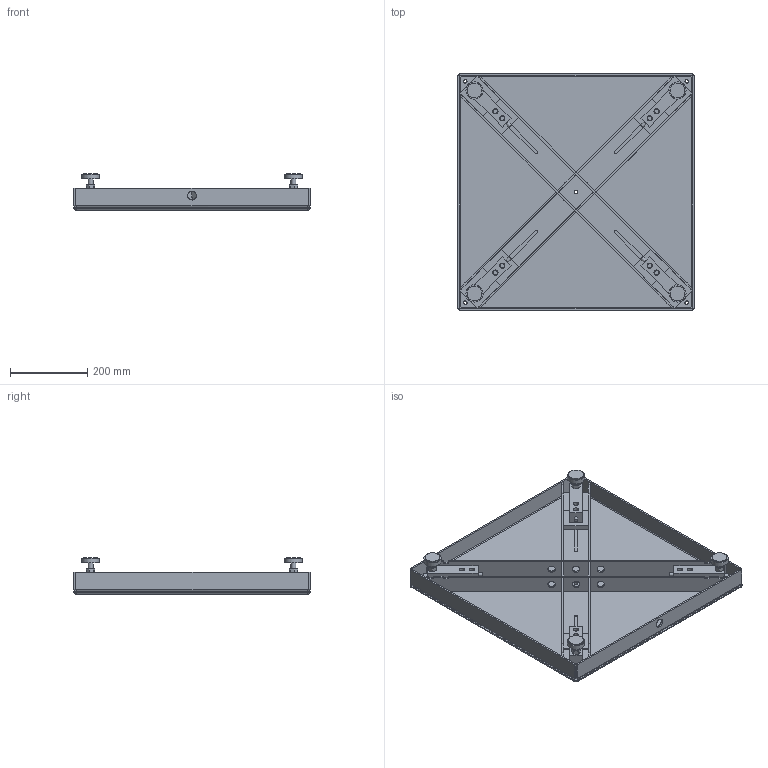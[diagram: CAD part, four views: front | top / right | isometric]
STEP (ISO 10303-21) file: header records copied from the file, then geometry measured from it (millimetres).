
FILE_DESCRIPTION (( 'STEP AP203' ), '1' );
FILE_NAME ('4040-24.STEP', '2022-01-07T17:52:06', ( '' ), ( '' ), 'SwSTEP 2.0', 'SolidWorks 2019', '' );
FILE_SCHEMA (( 'CONFIG_CONTROL_DESIGN' ));
Length unit declared in the file: inch
Products named in the file (1): 4040-24
Bounding box: 609.6 x 609.6 x 94.82 mm (x, y, z)
Surface area: 1794516.3 mm2 (no closed solid volume)
Topology: 0 solids, 30 shells, 349 faces, 1254 edges, 923 vertices
Faces by surface type: plane 198, cylinder 116, cone 23, bspline 8, sphere 4
Full cylindrical faces by diameter (mm): 7.937 x1, 7.938 x8, 9.128 x5, 12.667 x4, 13.335 x8, 19.05 x12, 22.86 x1, 37.973 x4, 38.481 x4, 44.45 x4
Entity records: 13864 total; most frequent: CARTESIAN_POINT 3339, DIRECTION 2145, ORIENTED_EDGE 1863, EDGE_CURVE 1190, VERTEX_POINT 919, AXIS2_PLACEMENT_3D 717, VECTOR 711, LINE 711
